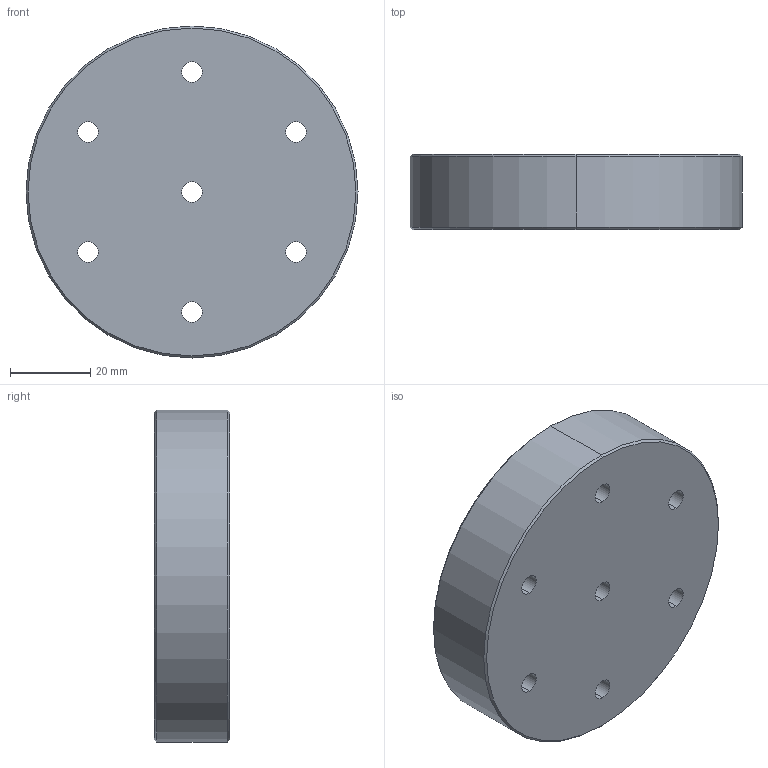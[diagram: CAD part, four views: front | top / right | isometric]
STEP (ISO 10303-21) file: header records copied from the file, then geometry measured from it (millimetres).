
FILE_DESCRIPTION (( 'STEP AP214' ), '1' );
FILE_NAME ('DRP-002-0533-00.STEP', '2013-12-20T16:58:10', ( 'ydmin' ), ( 'Microsoft' ), 'SwSTEP 2.0', 'SolidWorks 2013', '' );
FILE_SCHEMA (( 'AUTOMOTIVE_DESIGN' ));
Length unit declared in the file: inch
Products named in the file (1): DRP-002-0533-00
Bounding box: 82.55 x 18.67 x 82.55 mm (x, y, z)
Volume: 97176.4 mm3; surface area: 17200.2 mm2
Topology: 1 solids, 1 shells, 22 faces, 56 edges, 36 vertices
Faces by surface type: cylinder 16, cone 4, plane 2
Entity records: 752 total; most frequent: DIRECTION 138, CARTESIAN_POINT 115, ORIENTED_EDGE 112, AXIS2_PLACEMENT_3D 59, EDGE_CURVE 56, EDGE_LOOP 36, VERTEX_POINT 36, CIRCLE 36
